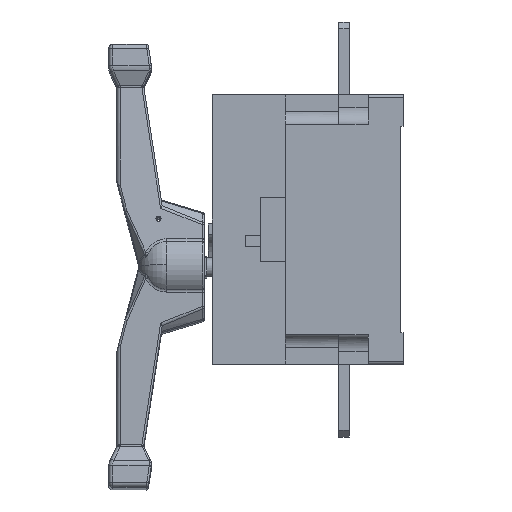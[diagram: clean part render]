
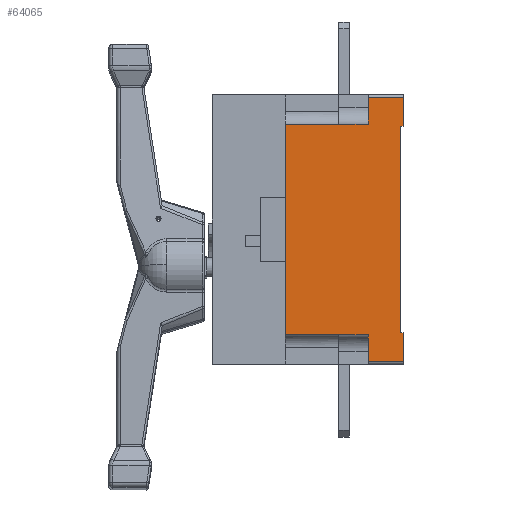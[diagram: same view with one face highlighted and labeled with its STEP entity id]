
A CAD part, left-side view. The second image highlights one B-rep face of the part: STEP entity #64065.
In plain terms, the highlighted planar face has unit normal (-1, 0, 0).
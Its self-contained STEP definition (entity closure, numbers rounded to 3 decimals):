
#126 = ORIENTED_EDGE ( 'NONE', *, *, #25729, .F. ) ;
#210 = DIRECTION ( 'NONE',  ( 0., 0., 1. ) ) ;
#777 = CARTESIAN_POINT ( 'NONE',  ( -246.5, -2., 98. ) ) ;
#1241 = DIRECTION ( 'NONE',  ( 0., 0., 1. ) ) ;
#1820 = LINE ( 'NONE', #51271, #29932 ) ;
#2547 = EDGE_CURVE ( 'NONE', #33306, #49157, #5618, .T. ) ;
#3210 = DIRECTION ( 'NONE',  ( 0., 0., 1. ) ) ;
#3773 = ORIENTED_EDGE ( 'NONE', *, *, #8286, .T. ) ;
#4283 = VECTOR ( 'NONE', #39235, 1000. ) ;
#4677 = CARTESIAN_POINT ( 'NONE',  ( -246.5, 24., -100. ) ) ;
#5552 = VECTOR ( 'NONE', #42374, 1000. ) ;
#5618 = LINE ( 'NONE', #4677, #25448 ) ;
#5890 = EDGE_CURVE ( 'NONE', #52171, #50475, #8046, .T. ) ;
#7429 = LINE ( 'NONE', #42469, #14598 ) ;
#7820 = LINE ( 'NONE', #38611, #55619 ) ;
#7987 = DIRECTION ( 'NONE',  ( 1., 0., 0. ) ) ;
#8046 = LINE ( 'NONE', #48666, #35430 ) ;
#8286 = EDGE_CURVE ( 'NONE', #33306, #32181, #42520, .T. ) ;
#8800 = VECTOR ( 'NONE', #1241, 1000. ) ;
#9163 = ORIENTED_EDGE ( 'NONE', *, *, #24884, .F. ) ;
#9512 = EDGE_CURVE ( 'NONE', #58277, #47385, #51004, .T. ) ;
#10207 = LINE ( 'NONE', #13856, #43480 ) ;
#10389 = ORIENTED_EDGE ( 'NONE', *, *, #19437, .T. ) ;
#11676 = VECTOR ( 'NONE', #46711, 1000. ) ;
#12661 = VECTOR ( 'NONE', #210, 1000. ) ;
#12920 = VECTOR ( 'NONE', #33025, 1000. ) ;
#13054 = CARTESIAN_POINT ( 'NONE',  ( -246.5, 46., -98. ) ) ;
#13742 = CARTESIAN_POINT ( 'NONE',  ( -246.5, 0., 76.5 ) ) ;
#13856 = CARTESIAN_POINT ( 'NONE',  ( -246.5, -2., -100. ) ) ;
#14043 = LINE ( 'NONE', #59896, #25256 ) ;
#14598 = VECTOR ( 'NONE', #17911, 1000. ) ;
#14957 = VERTEX_POINT ( 'NONE', #62269 ) ;
#15681 = CARTESIAN_POINT ( 'NONE',  ( -246.5, -2., 76.5 ) ) ;
#17487 = CARTESIAN_POINT ( 'NONE',  ( -246.5, 85.5, -100. ) ) ;
#17911 = DIRECTION ( 'NONE',  ( 0., 1., 0. ) ) ;
#17956 = ORIENTED_EDGE ( 'NONE', *, *, #62313, .T. ) ;
#18230 = CARTESIAN_POINT ( 'NONE',  ( -246.5, 46., 78. ) ) ;
#18396 = CARTESIAN_POINT ( 'NONE',  ( -246.5, 46., -78. ) ) ;
#19437 = EDGE_CURVE ( 'NONE', #62898, #58277, #21749, .T. ) ;
#19644 = EDGE_CURVE ( 'NONE', #50124, #47385, #20087, .T. ) ;
#19916 = VERTEX_POINT ( 'NONE', #18396 ) ;
#20087 = LINE ( 'NONE', #59741, #27570 ) ;
#20781 = CARTESIAN_POINT ( 'NONE',  ( -246.5, 24., 100. ) ) ;
#21749 = LINE ( 'NONE', #22399, #5552 ) ;
#21931 = EDGE_CURVE ( 'NONE', #62898, #32181, #10207, .T. ) ;
#22399 = CARTESIAN_POINT ( 'NONE',  ( -246.5, -2., -76.5 ) ) ;
#22405 = PLANE ( 'NONE',  #51384 ) ;
#23991 = LINE ( 'NONE', #64004, #11676 ) ;
#24147 = EDGE_CURVE ( 'NONE', #63656, #50475, #23991, .T. ) ;
#24774 = EDGE_CURVE ( 'NONE', #55871, #19916, #56645, .T. ) ;
#24884 = EDGE_CURVE ( 'NONE', #19916, #14957, #50023, .T. ) ;
#25256 = VECTOR ( 'NONE', #55605, 1000. ) ;
#25448 = VECTOR ( 'NONE', #44941, 1000. ) ;
#25729 = EDGE_CURVE ( 'NONE', #14957, #43628, #14043, .T. ) ;
#26370 = DIRECTION ( 'NONE',  ( 0., 1., 0. ) ) ;
#26745 = CARTESIAN_POINT ( 'NONE',  ( -246.5, 0., -100. ) ) ;
#26953 = ORIENTED_EDGE ( 'NONE', *, *, #19644, .F. ) ;
#27321 = FACE_OUTER_BOUND ( 'NONE', #42980, .T. ) ;
#27570 = VECTOR ( 'NONE', #49581, 1000. ) ;
#27956 = DIRECTION ( 'NONE',  ( 0., 0., -1. ) ) ;
#29409 = CARTESIAN_POINT ( 'NONE',  ( -246.5, 46., -78. ) ) ;
#29932 = VECTOR ( 'NONE', #26370, 1000. ) ;
#31871 = CARTESIAN_POINT ( 'NONE',  ( -246.5, 46., 78.3 ) ) ;
#32181 = VERTEX_POINT ( 'NONE', #62660 ) ;
#33025 = DIRECTION ( 'NONE',  ( 0., -1., 0. ) ) ;
#33306 = VERTEX_POINT ( 'NONE', #50132 ) ;
#33515 = EDGE_CURVE ( 'NONE', #54877, #50124, #7820, .T. ) ;
#33832 = DIRECTION ( 'NONE',  ( 0., 0., -1. ) ) ;
#34142 = CARTESIAN_POINT ( 'NONE',  ( -246.5, 85.5, 78. ) ) ;
#34228 = CARTESIAN_POINT ( 'NONE',  ( -246.5, 24., -78.3 ) ) ;
#34945 = CARTESIAN_POINT ( 'NONE',  ( -246.5, 24., 98. ) ) ;
#35430 = VECTOR ( 'NONE', #43751, 1000. ) ;
#36732 = EDGE_CURVE ( 'NONE', #63656, #43628, #42181, .T. ) ;
#36948 = CARTESIAN_POINT ( 'NONE',  ( -246.5, 0., -76.5 ) ) ;
#38611 = CARTESIAN_POINT ( 'NONE',  ( -246.5, -2., 100. ) ) ;
#38784 = VECTOR ( 'NONE', #3210, 1000. ) ;
#39235 = DIRECTION ( 'NONE',  ( 0., 1., 0. ) ) ;
#39460 = ORIENTED_EDGE ( 'NONE', *, *, #24774, .F. ) ;
#42181 = LINE ( 'NONE', #57574, #48773 ) ;
#42374 = DIRECTION ( 'NONE',  ( 0., 1., 0. ) ) ;
#42469 = CARTESIAN_POINT ( 'NONE',  ( -246.5, 46., 98. ) ) ;
#42520 = LINE ( 'NONE', #13054, #12920 ) ;
#42980 = EDGE_LOOP ( 'NONE', ( #126, #9163, #39460, #52618, #46253, #3773, #57290, #10389, #55645, #26953, #61497, #17956, #43353, #48834, #61653, #43123 ) ) ;
#43123 = ORIENTED_EDGE ( 'NONE', *, *, #36732, .T. ) ;
#43353 = ORIENTED_EDGE ( 'NONE', *, *, #55993, .F. ) ;
#43480 = VECTOR ( 'NONE', #33832, 1000. ) ;
#43628 = VERTEX_POINT ( 'NONE', #34142 ) ;
#43751 = DIRECTION ( 'NONE',  ( 0., 1., 0. ) ) ;
#44941 = DIRECTION ( 'NONE',  ( 0., 0., 1. ) ) ;
#46253 = ORIENTED_EDGE ( 'NONE', *, *, #2547, .F. ) ;
#46711 = DIRECTION ( 'NONE',  ( 0., 0., 1. ) ) ;
#47385 = VERTEX_POINT ( 'NONE', #13742 ) ;
#48666 = CARTESIAN_POINT ( 'NONE',  ( -246.5, 24., 78.3 ) ) ;
#48682 = CARTESIAN_POINT ( 'NONE',  ( -246.5, 46., -78.3 ) ) ;
#48773 = VECTOR ( 'NONE', #57250, 1000. ) ;
#48834 = ORIENTED_EDGE ( 'NONE', *, *, #5890, .T. ) ;
#48960 = EDGE_CURVE ( 'NONE', #49157, #55871, #1820, .T. ) ;
#49157 = VERTEX_POINT ( 'NONE', #34228 ) ;
#49581 = DIRECTION ( 'NONE',  ( 0., 1., 0. ) ) ;
#50023 = LINE ( 'NONE', #29409, #4283 ) ;
#50124 = VERTEX_POINT ( 'NONE', #15681 ) ;
#50132 = CARTESIAN_POINT ( 'NONE',  ( -246.5, 24., -98. ) ) ;
#50475 = VERTEX_POINT ( 'NONE', #31871 ) ;
#51004 = LINE ( 'NONE', #26745, #8800 ) ;
#51271 = CARTESIAN_POINT ( 'NONE',  ( -246.5, 24., -78.3 ) ) ;
#51384 = AXIS2_PLACEMENT_3D ( 'NONE', #17487, #7987, #27956 ) ;
#51721 = CARTESIAN_POINT ( 'NONE',  ( -246.5, 46., -100. ) ) ;
#52171 = VERTEX_POINT ( 'NONE', #57845 ) ;
#52618 = ORIENTED_EDGE ( 'NONE', *, *, #48960, .F. ) ;
#52702 = DIRECTION ( 'NONE',  ( 0., 0., -1. ) ) ;
#54877 = VERTEX_POINT ( 'NONE', #777 ) ;
#55605 = DIRECTION ( 'NONE',  ( 0., 0., 1. ) ) ;
#55619 = VECTOR ( 'NONE', #52702, 1000. ) ;
#55645 = ORIENTED_EDGE ( 'NONE', *, *, #9512, .T. ) ;
#55854 = LINE ( 'NONE', #20781, #12661 ) ;
#55871 = VERTEX_POINT ( 'NONE', #48682 ) ;
#55993 = EDGE_CURVE ( 'NONE', #52171, #59961, #55854, .T. ) ;
#56645 = LINE ( 'NONE', #51721, #38784 ) ;
#57250 = DIRECTION ( 'NONE',  ( 0., 1., 0. ) ) ;
#57290 = ORIENTED_EDGE ( 'NONE', *, *, #21931, .F. ) ;
#57574 = CARTESIAN_POINT ( 'NONE',  ( -246.5, 46., 78. ) ) ;
#57845 = CARTESIAN_POINT ( 'NONE',  ( -246.5, 24., 78.3 ) ) ;
#58277 = VERTEX_POINT ( 'NONE', #36948 ) ;
#59741 = CARTESIAN_POINT ( 'NONE',  ( -246.5, -2., 76.5 ) ) ;
#59896 = CARTESIAN_POINT ( 'NONE',  ( -246.5, 85.5, -100. ) ) ;
#59961 = VERTEX_POINT ( 'NONE', #34945 ) ;
#61497 = ORIENTED_EDGE ( 'NONE', *, *, #33515, .F. ) ;
#61653 = ORIENTED_EDGE ( 'NONE', *, *, #24147, .F. ) ;
#62269 = CARTESIAN_POINT ( 'NONE',  ( -246.5, 85.5, -78. ) ) ;
#62313 = EDGE_CURVE ( 'NONE', #54877, #59961, #7429, .T. ) ;
#62660 = CARTESIAN_POINT ( 'NONE',  ( -246.5, -2., -98. ) ) ;
#62694 = CARTESIAN_POINT ( 'NONE',  ( -246.5, -2., -76.5 ) ) ;
#62898 = VERTEX_POINT ( 'NONE', #62694 ) ;
#63656 = VERTEX_POINT ( 'NONE', #18230 ) ;
#64004 = CARTESIAN_POINT ( 'NONE',  ( -246.5, 46., -100. ) ) ;
#64065 = ADVANCED_FACE ( 'NONE', ( #27321 ), #22405, .F. ) ;
